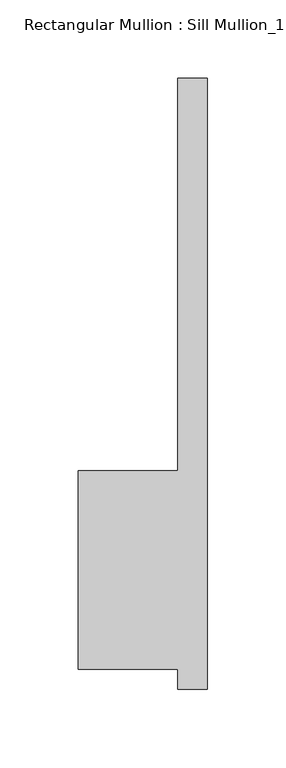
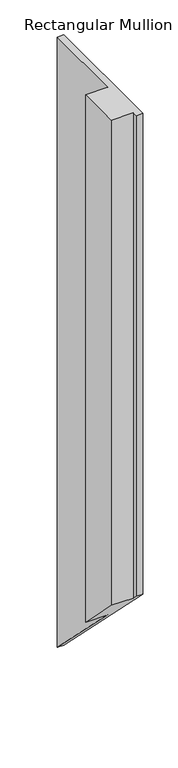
"""IFC4 building model written with IfcOpenShell, lengths in millimetres: member geometry."""

from ifc_helpers import new_model, si_unit, origin, place, context, project, spatial, faceted_brep, source, transform, mapped, element, save


def member_e7b453bd(model_context):
    return source(origin(), model_context, "Body", "Brep", [
        faceted_brep([(-82.55, 50.8, 0.0), (-82.55, -76.2, 0.0), (-19.05, -76.2, 0.0), (-19.05, -88.9, 0.0), (0.0, -88.9, 0.0), (0.0, 301.625, 0.0), (-19.05, 301.625, 0.0), (-19.05, 50.8, 0.0), (-82.55, 50.8, -1592.4892857), (-82.55, -76.2, -1465.4892857), (-19.05, -76.2, -1465.4892857), (-19.05, -88.9, -1452.7892857), (0.0, -88.9, -1452.7892857), (0.0, 301.625, -1843.3142857), (-19.05, 301.625, -1843.3142857), (-19.05, 50.8, -1592.4892857)], [[[0, 1, 2, 3, 4, 5, 6, 7]], [[1, 0, 8, 9]], [[2, 1, 9, 10]], [[3, 2, 10, 11]], [[4, 3, 11, 12]], [[5, 4, 12, 13]], [[6, 5, 13, 14]], [[7, 6, 14, 15]], [[0, 7, 15, 8]], [[8, 15, 14, 13, 12, 11, 10, 9]]]),
    ])


if __name__ == "__main__":
    model = new_model("IFC4")
    model_context = context("Model", 3, world=origin())
    ifc_project = project(units=[si_unit("LENGTHUNIT", "METRE", prefix="MILLI")], contexts=[model_context])
    site = spatial("IfcSite", under=ifc_project)
    building = spatial("IfcBuilding", under=site)
    placement = place(None, origin())
    member_shape = member_e7b453bd(model_context)
    element("IfcMember", 1, ObjectType="Rectangular Mullion : Sill Mullion_15\" thick wall", at=placement, inside=building, context=model_context, shape_type="MappedRepresentation", body=[
        mapped(member_shape, transform((0.0, 0.0, 0.0), x_axis=(1.0, 0.0, 0.0), y_axis=(0.0, 1.0, 0.0), z_axis=(0.0, 0.0, 1.0))),
    ])
    save(model, "model.ifc")
